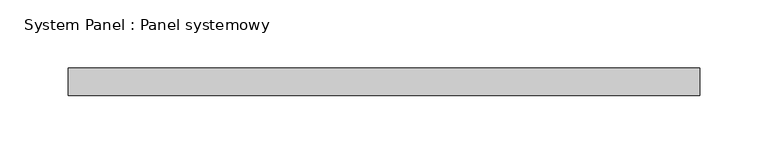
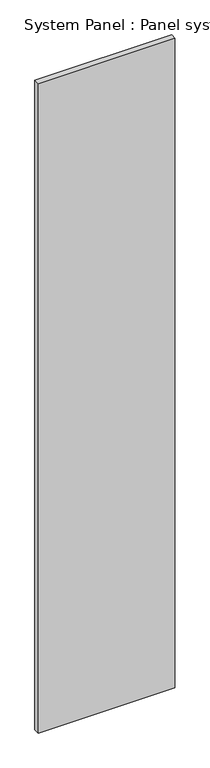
"""IFC4 building model written with IfcOpenShell, lengths in millimetres: plate geometry, System Panel : Panel systemowy."""

from ifc_helpers import new_model, si_unit, origin, origin_with_axes, place, context, project, spatial, polyline, outline, extrude, source, transform, mapped, element, save


def system_panel_panel_systemowy_97011aef(model_context):
    return source(origin(), model_context, "Body", "SweptSolid", [
        extrude(outline(polyline([(231.25, -10.0), (-231.25, -10.0), (-231.25, 10.0), (231.25, 10.0), (231.25, -10.0)])), origin_with_axes(), (0.0, 0.0, 1.0), 2325.0),
    ])


if __name__ == "__main__":
    model = new_model("IFC4")
    model_context = context("Model", 3, world=origin())
    ifc_project = project(units=[si_unit("LENGTHUNIT", "METRE", prefix="MILLI")], contexts=[model_context])
    site = spatial("IfcSite", under=ifc_project)
    building = spatial("IfcBuilding", under=site)
    placement = place(None, origin())
    system_panel_panel_systemowy_shape = system_panel_panel_systemowy_97011aef(model_context)
    element("IfcPlate", 1, ObjectType="System Panel : Panel systemowy", at=placement, inside=building, context=model_context, shape_type="MappedRepresentation", body=[
        mapped(system_panel_panel_systemowy_shape, transform((0.0, 0.0, 0.0), x_axis=(1.0, 0.0, 0.0), y_axis=(0.0, 1.0, 0.0), z_axis=(0.0, 0.0, 1.0))),
    ])
    save(model, "model.ifc")
